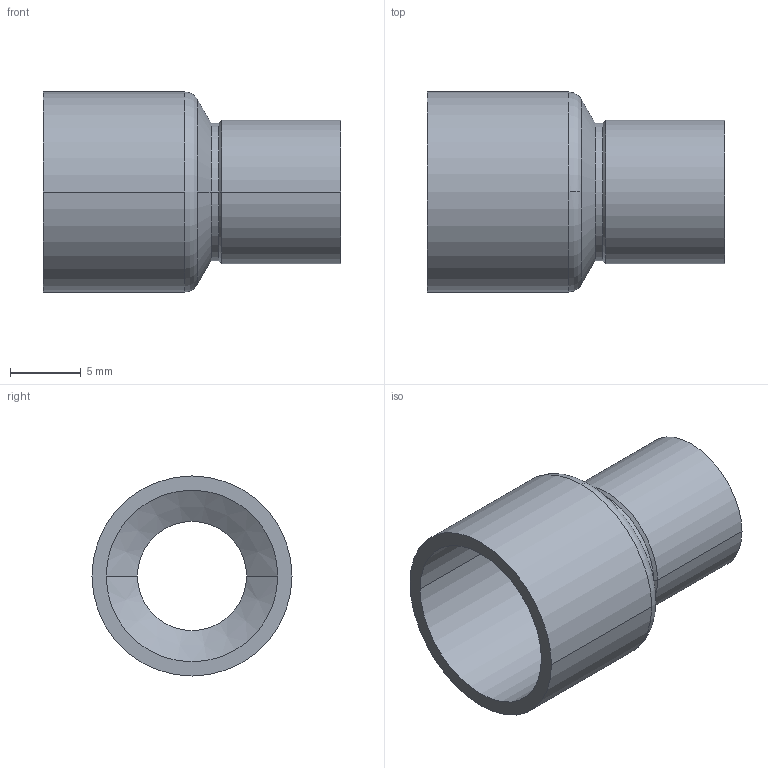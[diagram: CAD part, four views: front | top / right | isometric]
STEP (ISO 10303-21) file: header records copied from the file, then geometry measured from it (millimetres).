
FILE_DESCRIPTION((''),'2;1');
FILE_NAME('G:\Technics\CAD\Bauteile\Serie 15240\15240128.stp','2005-10-21T12:51:00',('boden'),(''),'Autodesk Inventor 8','Autodesk Inventor 8','');
FILE_SCHEMA(('AUTOMOTIVE_DESIGN { 1 0 10303 214 1 1 1 1 }'));
Length unit declared in the file: millimetre
Products named in the file (1): 15240128
Bounding box: 21 x 14.1 x 14.1 mm (x, y, z)
Volume: 778.9 mm3; surface area: 1627.2 mm2
Topology: 1 solids, 1 shells, 24 faces, 52 edges, 30 vertices
Faces by surface type: cylinder 12, cone 8, torus 2, plane 2
Entity records: 683 total; most frequent: DIRECTION 134, CARTESIAN_POINT 107, ORIENTED_EDGE 104, AXIS2_PLACEMENT_3D 57, EDGE_CURVE 52, CIRCLE 32, VERTEX_POINT 30, EDGE_LOOP 26
